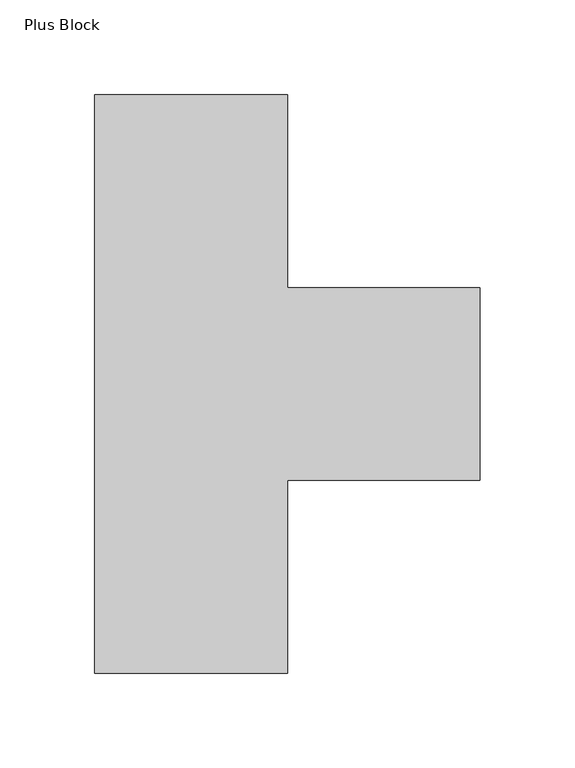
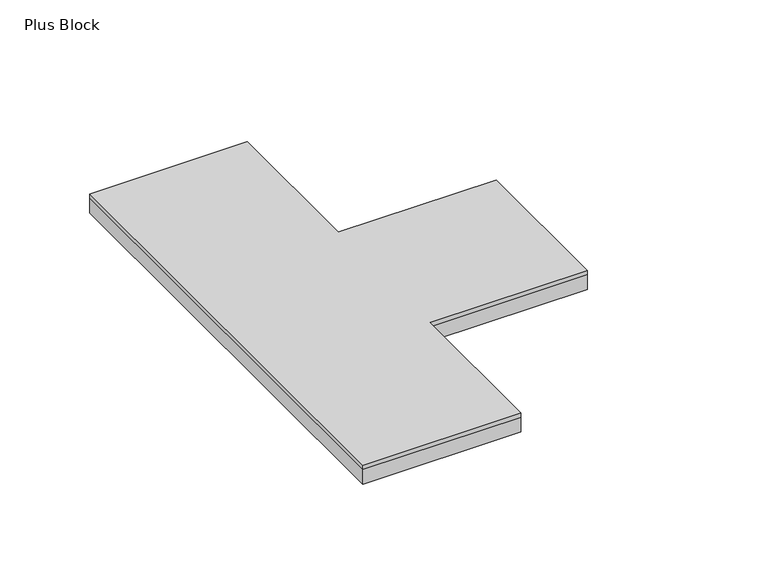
"""IFC4 building model written with IfcOpenShell, lengths in millimetres: proxy geometry, FilzFelt_Plus_Block : Plus Block."""

from ifc_helpers import new_model, si_unit, frame, origin, origin_with_axes, place, context, project, spatial, polyline, outline, extrude, source, transform, mapped, element, save


def plus_block_886bbecf(model_context):
    return source(origin(), model_context, "Body", "SweptSolid", [
        extrude(outline(polyline([(50.8333333, 50.8333333), (152.5, 50.8333333), (152.5, -50.8333333), (50.8333333, -50.8333333), (50.8333333, -152.5), (-50.8333333, -152.5), (-50.8333333, 152.5), (50.8333333, 152.5), (50.8333333, 50.8333333)])), frame((0.0, 0.0, 10.0210937), z_axis=(0.0, 0.0, 1.0), x_axis=(1.0, 0.0, 0.0)), (0.0, 0.0, 1.0), 2.9765625),
        extrude(outline(polyline([(-50.8333333, 152.5), (50.8333333, 152.5), (50.8333333, 50.8333333), (152.5, 50.8333333), (152.5, -50.8333333), (50.8333333, -50.8333333), (50.8333333, -152.5), (-50.8333333, -152.5), (-50.8333333, 152.5)])), origin_with_axes(), (0.0, 0.0, 1.0), 10.0210938),
    ])


if __name__ == "__main__":
    model = new_model("IFC4")
    model_context = context("Model", 3, world=origin())
    ifc_project = project(units=[si_unit("LENGTHUNIT", "METRE", prefix="MILLI")], contexts=[model_context])
    site = spatial("IfcSite", under=ifc_project)
    building = spatial("IfcBuilding", under=site)
    placement = place(None, origin())
    plus_block_shape = plus_block_886bbecf(model_context)
    element("IfcBuildingElementProxy", 1, Name="FilzFelt_Plus_Block : Plus Block", ObjectType="FilzFelt_Plus_Block : Plus Block", at=placement, inside=building, context=model_context, shape_type="MappedRepresentation", body=[
        mapped(plus_block_shape, transform((0.0, 0.0, 0.0), x_axis=(1.0, 0.0, 0.0), y_axis=(0.0, 1.0, 0.0), z_axis=(0.0, 0.0, 1.0))),
    ])
    save(model, "model.ifc")
